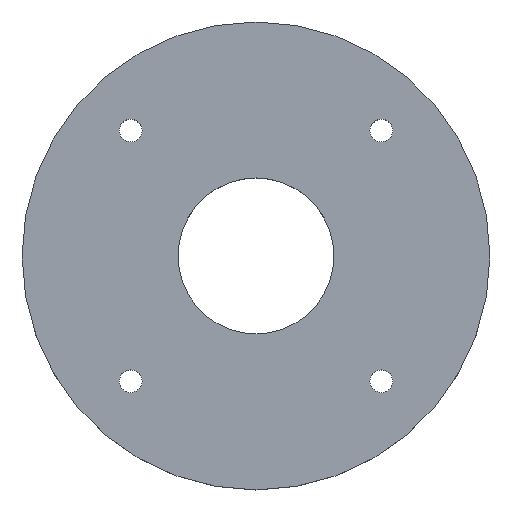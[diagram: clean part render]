
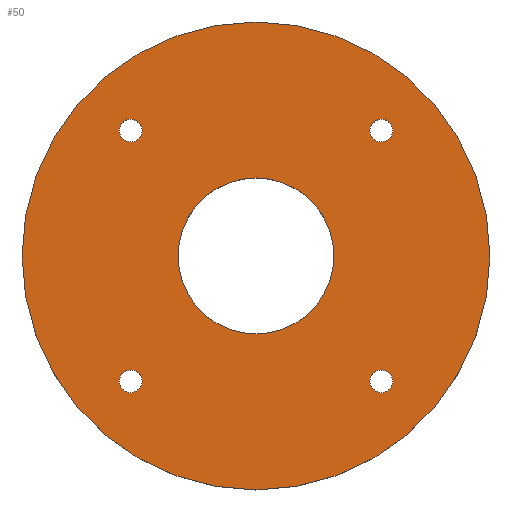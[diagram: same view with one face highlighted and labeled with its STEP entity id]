
A CAD part, top view. The second image highlights one B-rep face of the part: STEP entity #50.
In plain terms, the highlighted planar face has unit normal (0, 0, 1).
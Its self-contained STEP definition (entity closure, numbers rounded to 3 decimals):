
#21 = EDGE_CURVE('',#22,#22,#24,.T.);
#22 = VERTEX_POINT('',#23);
#23 = CARTESIAN_POINT('',(33.,0.,36.));
#24 = CIRCLE('',#25,33.);
#25 = AXIS2_PLACEMENT_3D('',#26,#27,#28);
#26 = CARTESIAN_POINT('',(0.,0.,36.));
#27 = DIRECTION('',(0.,0.,1.));
#28 = DIRECTION('',(1.,0.,-0.));
#50 = ADVANCED_FACE('',(#51,#54,#65,#76,#87,#98),#109,.T.);
#51 = FACE_BOUND('',#52,.T.);
#52 = EDGE_LOOP('',(#53));
#53 = ORIENTED_EDGE('',*,*,#21,.T.);
#54 = FACE_BOUND('',#55,.T.);
#55 = EDGE_LOOP('',(#56));
#56 = ORIENTED_EDGE('',*,*,#57,.F.);
#57 = EDGE_CURVE('',#58,#58,#60,.T.);
#58 = VERTEX_POINT('',#59);
#59 = CARTESIAN_POINT('',(-16.078,-17.678,36.));
#60 = CIRCLE('',#61,1.6);
#61 = AXIS2_PLACEMENT_3D('',#62,#63,#64);
#62 = CARTESIAN_POINT('',(-17.678,-17.678,36.));
#63 = DIRECTION('',(0.,0.,1.));
#64 = DIRECTION('',(1.,0.,-0.));
#65 = FACE_BOUND('',#66,.T.);
#66 = EDGE_LOOP('',(#67));
#67 = ORIENTED_EDGE('',*,*,#68,.F.);
#68 = EDGE_CURVE('',#69,#69,#71,.T.);
#69 = VERTEX_POINT('',#70);
#70 = CARTESIAN_POINT('',(19.278,-17.678,36.));
#71 = CIRCLE('',#72,1.6);
#72 = AXIS2_PLACEMENT_3D('',#73,#74,#75);
#73 = CARTESIAN_POINT('',(17.678,-17.678,36.));
#74 = DIRECTION('',(0.,0.,1.));
#75 = DIRECTION('',(1.,0.,-0.));
#76 = FACE_BOUND('',#77,.T.);
#77 = EDGE_LOOP('',(#78));
#78 = ORIENTED_EDGE('',*,*,#79,.F.);
#79 = EDGE_CURVE('',#80,#80,#82,.T.);
#80 = VERTEX_POINT('',#81);
#81 = CARTESIAN_POINT('',(-16.078,17.678,36.));
#82 = CIRCLE('',#83,1.6);
#83 = AXIS2_PLACEMENT_3D('',#84,#85,#86);
#84 = CARTESIAN_POINT('',(-17.678,17.678,36.));
#85 = DIRECTION('',(0.,0.,1.));
#86 = DIRECTION('',(1.,0.,-0.));
#87 = FACE_BOUND('',#88,.T.);
#88 = EDGE_LOOP('',(#89));
#89 = ORIENTED_EDGE('',*,*,#90,.F.);
#90 = EDGE_CURVE('',#91,#91,#93,.T.);
#91 = VERTEX_POINT('',#92);
#92 = CARTESIAN_POINT('',(11.,0.,36.));
#93 = CIRCLE('',#94,11.);
#94 = AXIS2_PLACEMENT_3D('',#95,#96,#97);
#95 = CARTESIAN_POINT('',(0.,0.,36.));
#96 = DIRECTION('',(0.,0.,1.));
#97 = DIRECTION('',(1.,0.,-0.));
#98 = FACE_BOUND('',#99,.T.);
#99 = EDGE_LOOP('',(#100));
#100 = ORIENTED_EDGE('',*,*,#101,.F.);
#101 = EDGE_CURVE('',#102,#102,#104,.T.);
#102 = VERTEX_POINT('',#103);
#103 = CARTESIAN_POINT('',(19.278,17.678,36.));
#104 = CIRCLE('',#105,1.6);
#105 = AXIS2_PLACEMENT_3D('',#106,#107,#108);
#106 = CARTESIAN_POINT('',(17.678,17.678,36.));
#107 = DIRECTION('',(0.,0.,1.));
#108 = DIRECTION('',(1.,0.,-0.));
#109 = PLANE('',#110);
#110 = AXIS2_PLACEMENT_3D('',#111,#112,#113);
#111 = CARTESIAN_POINT('',(0.,0.,36.));
#112 = DIRECTION('',(0.,0.,1.));
#113 = DIRECTION('',(1.,0.,-0.));
